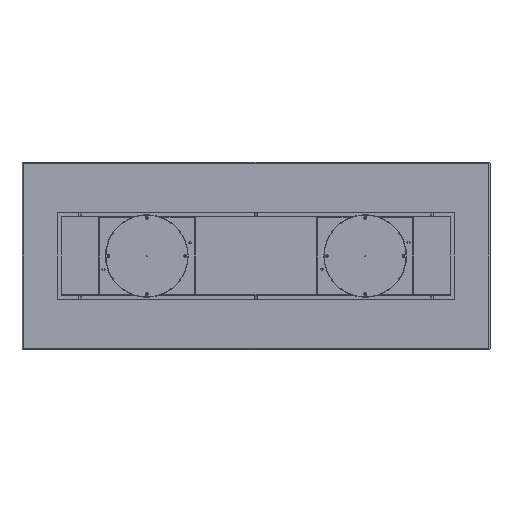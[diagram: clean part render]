
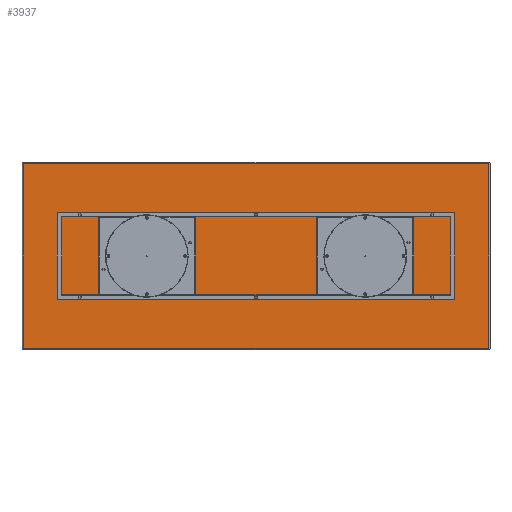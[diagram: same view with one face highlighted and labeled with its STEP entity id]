
A CAD part, front view. The second image highlights one B-rep face of the part: STEP entity #3937.
In plain terms, the highlighted planar face has unit normal (0, -1, 0).
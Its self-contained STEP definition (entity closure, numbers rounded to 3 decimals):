
#100 = CARTESIAN_POINT ( 'NONE',  ( 0., 0., -592. ) ) ;
#153 = CARTESIAN_POINT ( 'NONE',  ( 1492., 0., -592. ) ) ;
#1393 = EDGE_CURVE ( 'NONE', #12741, #12015, #9903, .T. ) ;
#1649 = CARTESIAN_POINT ( 'NONE',  ( 0., 0., 592. ) ) ;
#2059 = VECTOR ( 'NONE', #10930, 1000. ) ;
#2265 = CARTESIAN_POINT ( 'NONE',  ( -1492., 0., 592. ) ) ;
#2303 = DIRECTION ( 'NONE',  ( -1., 0., 0. ) ) ;
#2518 = VERTEX_POINT ( 'NONE', #6081 ) ;
#2856 = DIRECTION ( 'NONE',  ( 0., 0., 1. ) ) ;
#3437 = EDGE_CURVE ( 'NONE', #12501, #12741, #6448, .T. ) ;
#3465 = ORIENTED_EDGE ( 'NONE', *, *, #3437, .T. ) ;
#3937 = ADVANCED_FACE ( 'NONE', ( #11528 ), #7185, .F. ) ;
#4080 = ORIENTED_EDGE ( 'NONE', *, *, #5536, .T. ) ;
#4595 = ORIENTED_EDGE ( 'NONE', *, *, #10071, .T. ) ;
#5483 = ORIENTED_EDGE ( 'NONE', *, *, #1393, .T. ) ;
#5536 = EDGE_CURVE ( 'NONE', #2518, #12501, #12044, .T. ) ;
#6081 = CARTESIAN_POINT ( 'NONE',  ( 1492., 0., 592. ) ) ;
#6448 = LINE ( 'NONE', #10789, #2059 ) ;
#6873 = VECTOR ( 'NONE', #2303, 1000. ) ;
#6908 = CARTESIAN_POINT ( 'NONE',  ( 0., 0., 0. ) ) ;
#7185 = PLANE ( 'NONE',  #11598 ) ;
#7347 = LINE ( 'NONE', #7481, #7704 ) ;
#7481 = CARTESIAN_POINT ( 'NONE',  ( 1492., 0., 0. ) ) ;
#7704 = VECTOR ( 'NONE', #11749, 1000. ) ;
#8235 = CARTESIAN_POINT ( 'NONE',  ( -1492., 0., -592. ) ) ;
#9456 = EDGE_LOOP ( 'NONE', ( #4595, #4080, #3465, #5483 ) ) ;
#9689 = DIRECTION ( 'NONE',  ( 1., 0., 0. ) ) ;
#9903 = LINE ( 'NONE', #100, #10160 ) ;
#10071 = EDGE_CURVE ( 'NONE', #12015, #2518, #7347, .T. ) ;
#10160 = VECTOR ( 'NONE', #9689, 1000. ) ;
#10789 = CARTESIAN_POINT ( 'NONE',  ( -1492., 0., 0. ) ) ;
#10930 = DIRECTION ( 'NONE',  ( 0., 0., -1. ) ) ;
#11528 = FACE_OUTER_BOUND ( 'NONE', #9456, .T. ) ;
#11598 = AXIS2_PLACEMENT_3D ( 'NONE', #6908, #12445, #2856 ) ;
#11749 = DIRECTION ( 'NONE',  ( 0., 0., 1. ) ) ;
#12015 = VERTEX_POINT ( 'NONE', #153 ) ;
#12044 = LINE ( 'NONE', #1649, #6873 ) ;
#12445 = DIRECTION ( 'NONE',  ( 0., 1., 0. ) ) ;
#12501 = VERTEX_POINT ( 'NONE', #2265 ) ;
#12741 = VERTEX_POINT ( 'NONE', #8235 ) ;
